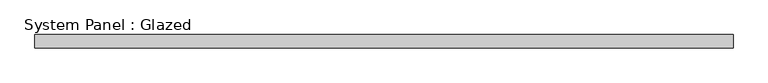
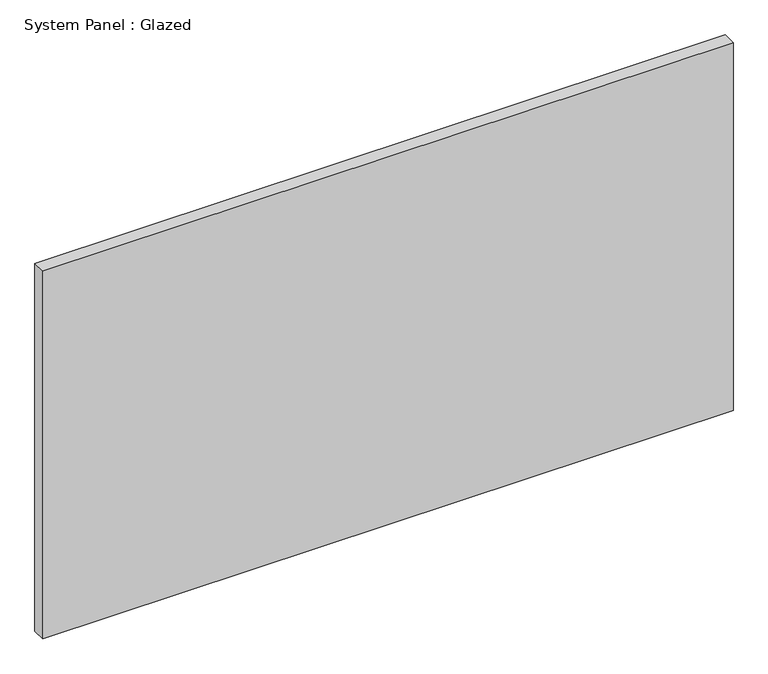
"""IFC4 building model written with IfcOpenShell, lengths in millimetres: plate geometry, System Panel : Glazed."""

from ifc_helpers import new_model, si_unit, origin, origin_with_axes, place, context, project, spatial, polyline, outline, extrude, source, transform, mapped, element, save


def system_panel_glazed_ee8e7c3d(model_context):
    return source(origin(), model_context, "Body", "SweptSolid", [
        extrude(outline(polyline([(643.3333333, 24.5), (-643.3333333, 24.5), (-643.3333333, 49.5), (643.3333333, 49.5), (643.3333333, 24.5)])), origin_with_axes(), (0.0, 0.0, 1.0), 725.0),
    ])


if __name__ == "__main__":
    model = new_model("IFC4")
    model_context = context("Model", 3, world=origin())
    ifc_project = project(units=[si_unit("LENGTHUNIT", "METRE", prefix="MILLI")], contexts=[model_context])
    site = spatial("IfcSite", under=ifc_project)
    building = spatial("IfcBuilding", under=site)
    placement = place(None, origin())
    system_panel_glazed_shape = system_panel_glazed_ee8e7c3d(model_context)
    element("IfcPlate", 1, ObjectType="System Panel : Glazed", at=placement, inside=building, context=model_context, shape_type="MappedRepresentation", body=[
        mapped(system_panel_glazed_shape, transform((0.0, 0.0, 0.0), x_axis=(1.0, 0.0, 0.0), y_axis=(0.0, 1.0, 0.0), z_axis=(0.0, 0.0, 1.0))),
    ])
    save(model, "model.ifc")
